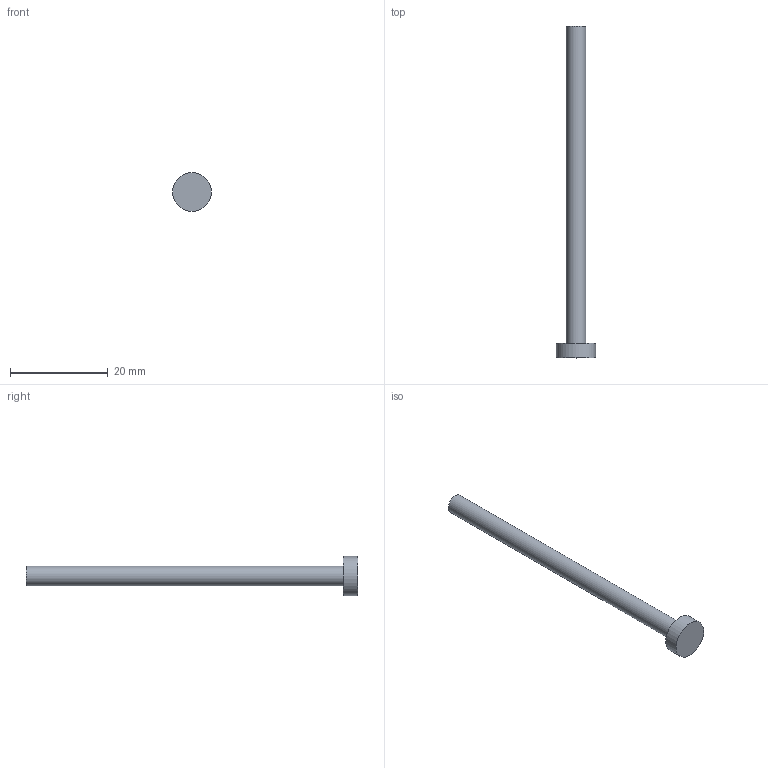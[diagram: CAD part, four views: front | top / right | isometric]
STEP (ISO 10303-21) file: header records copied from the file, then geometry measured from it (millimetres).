
FILE_DESCRIPTION(('Open CASCADE Model'),'2;1');
FILE_NAME('Open CASCADE Shape Model','2026-09-20T04:25:33',('Author'),( 'Open CASCADE'),'Open CASCADE STEP processor 7.9','Open CASCADE 7.9' ,'Unknown');
FILE_SCHEMA(('AUTOMOTIVE_DESIGN { 1 0 10303 214 1 1 1 1 }'));
Length unit declared in the file: millimetre
Products named in the file (1): Open CASCADE STEP translator 7.9 7
Bounding box: 8 x 68 x 8 mm (x, y, z)
Volume: 967.6 mm3; surface area: 992.7 mm2
Topology: 1 solids, 1 shells, 5 faces, 6 edges, 4 vertices
Faces by surface type: plane 3, cylinder 2
Full cylindrical faces by diameter (mm): 4 x1, 8 x1
Entity records: 192 total; most frequent: DIRECTION 34, CARTESIAN_POINT 28, ORIENTED_EDGE 12, PCURVE 12, DEFINITIONAL_REPRESENTATION 12, AXIS2_PLACEMENT_3D 10, LINE 10, VECTOR 10
